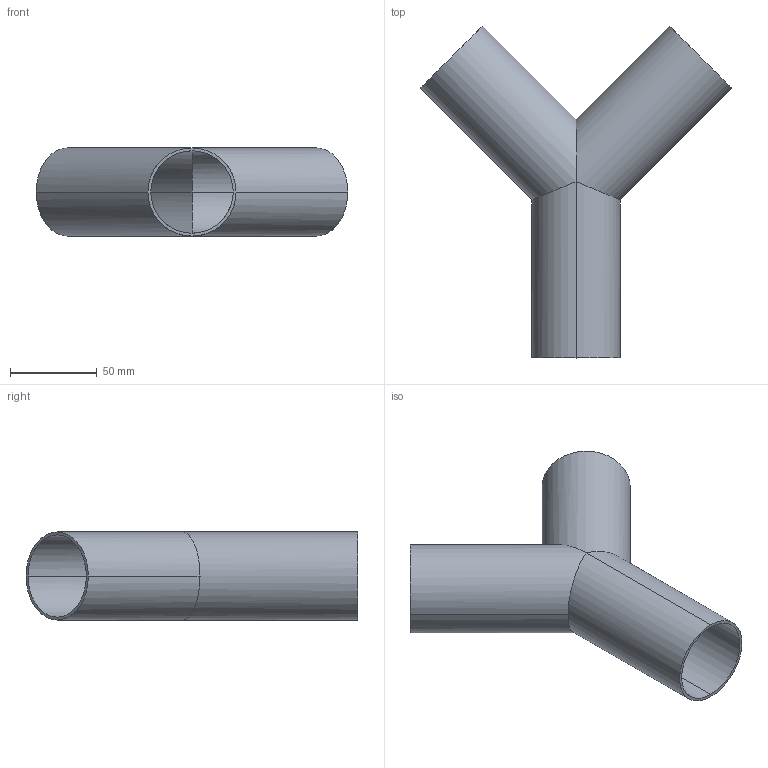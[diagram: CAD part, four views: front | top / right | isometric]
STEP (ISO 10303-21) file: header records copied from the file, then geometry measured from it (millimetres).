
FILE_DESCRIPTION (( 'STEP AP203' ), '1' );
FILE_NAME ('E28WB2.0.STEP', '2018-05-04T12:56:15', ( 'vneprd' ), ( 'Microsoft' ), 'SwSTEP 2.0', 'SolidWorks 2014', '' );
FILE_SCHEMA (( 'CONFIG_CONTROL_DESIGN' ));
Length unit declared in the file: inch
Products named in the file (1): E28WB2.0
Bounding box: 179.61 x 191.4 x 50.8 mm (x, y, z)
Volume: 70406.1 mm3; surface area: 86047.2 mm2
Topology: 1 solids, 1 shells, 15 faces, 36 edges, 22 vertices
Faces by surface type: cylinder 12, plane 3
Entity records: 521 total; most frequent: CARTESIAN_POINT 110, ORIENTED_EDGE 72, DIRECTION 68, EDGE_CURVE 36, AXIS2_PLACEMENT_3D 28, VERTEX_POINT 22, EDGE_LOOP 18, ADVANCED_FACE 15
